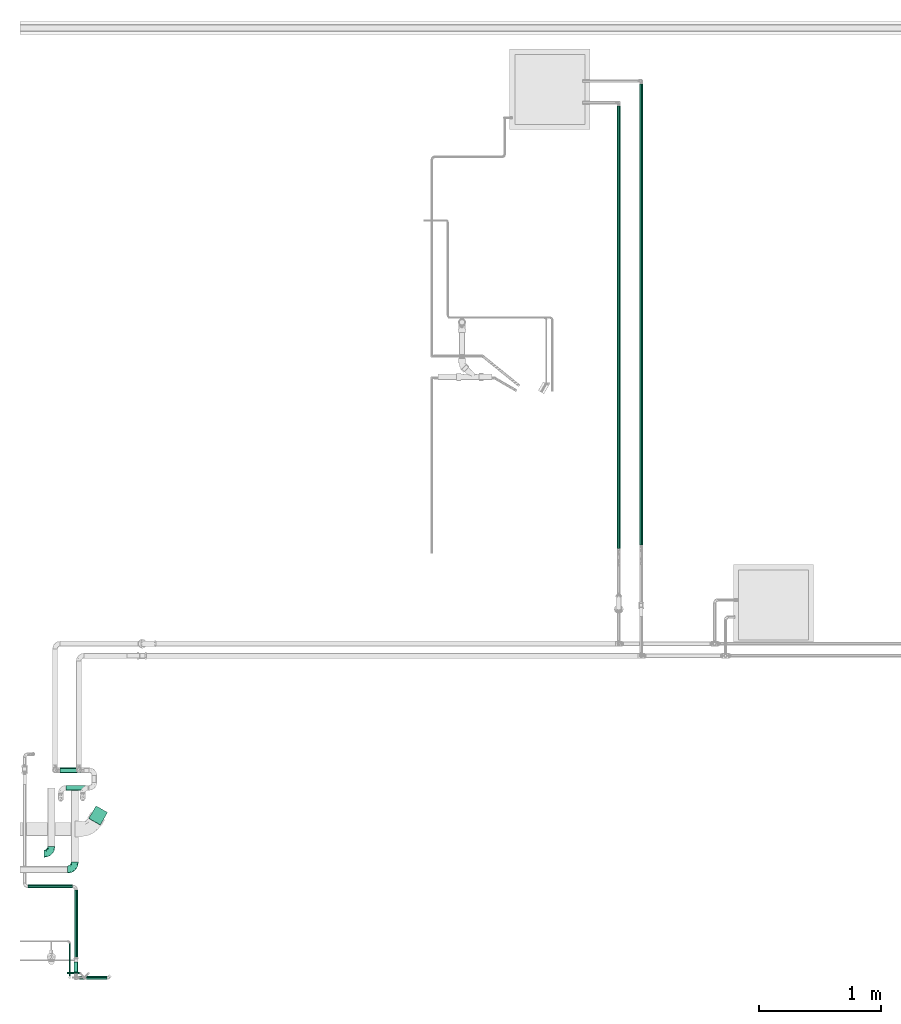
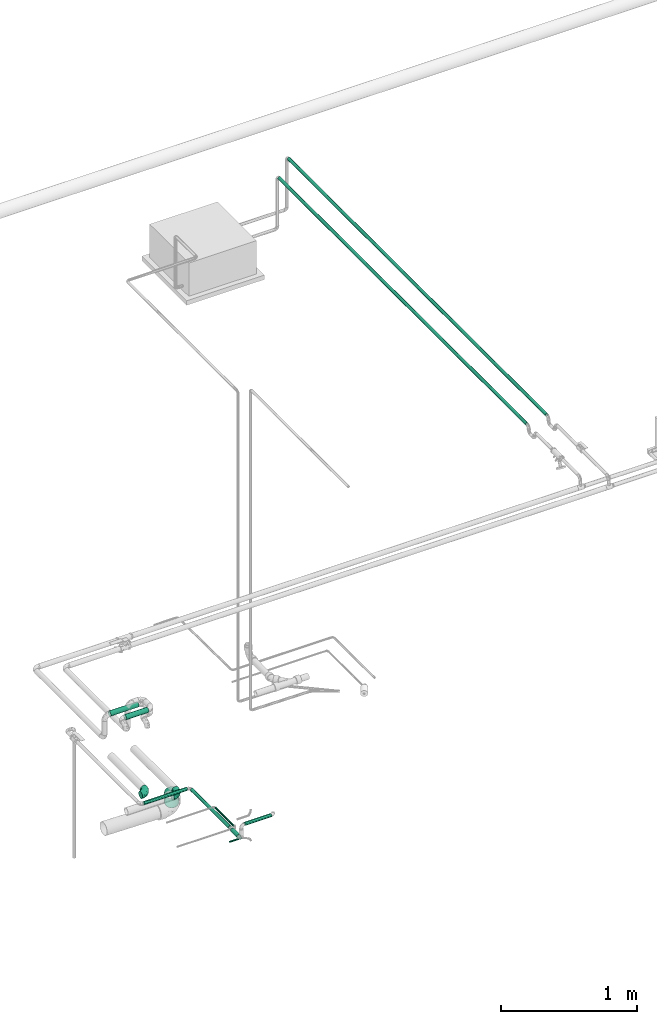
# One storey, part 7 of 35: 11 flow segments, 2 flow fittings.
"""IFC2X3 building model written with IfcOpenShell, lengths in millimetres."""

from ifc_helpers import new_model, entity, si_unit, converted_unit, derived_unit, direction, frame, origin_with_axes, origin_2d_with_axis, place, context, subcontext, project, spatial, hollow_circle, extrude, open_shell, surface_model, source, transform, mapped, type_object, element, save


model = new_model("IFC2X3")

# Units and contexts
model_context = context("Model", 3, precision=0.01, world=frame((0.0, 4.29681676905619e-09, 0.0)), true_north=direction((4.01073788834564e-13, 1.0)))
plan_context = context("Plan", 3, precision=0.01, world=frame((0.0, 4.29681676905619e-09, 0.0)), true_north=direction((4.01073788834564e-13, 1.0)))
body_context = subcontext(model_context, "Body", "Model", "MODEL_VIEW")
ifc_project = project(units=[converted_unit("PLANEANGLEUNIT", "DEGREE", entity("IfcPositiveLengthMeasure", 0.0174532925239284), si_unit("PLANEANGLEUNIT", "RADIAN"), dimensions=[0, 0, 0, 0, 0, 0, 0]), si_unit("AREAUNIT", "SQUARE_METRE"), si_unit("LENGTHUNIT", "METRE", prefix="MILLI"), si_unit("MASSUNIT", "GRAM", prefix="KILO"), si_unit("POWERUNIT", "WATT"), si_unit("PRESSUREUNIT", "PASCAL"), si_unit("FORCEUNIT", "NEWTON", prefix="KILO"), si_unit("ELECTRICVOLTAGEUNIT", "VOLT"), si_unit("ELECTRICCURRENTUNIT", "AMPERE"), si_unit("THERMODYNAMICTEMPERATUREUNIT", "DEGREE_CELSIUS"), si_unit("TIMEUNIT", "SECOND"), si_unit("VOLUMEUNIT", "CUBIC_METRE"), derived_unit("LINEARVELOCITYUNIT", [(si_unit("LENGTHUNIT", "METRE"), 1), (si_unit("TIMEUNIT", "SECOND"), -1)]), derived_unit("VOLUMETRICFLOWRATEUNIT", [(si_unit("VOLUMEUNIT", "CUBIC_METRE"), 1), (si_unit("TIMEUNIT", "SECOND"), -1)]), derived_unit("THERMALTRANSMITTANCEUNIT", [(si_unit("POWERUNIT", "WATT"), 1), (si_unit("THERMODYNAMICTEMPERATUREUNIT", "KELVIN"), -1), (si_unit("AREAUNIT", "SQUARE_METRE"), -1)]), derived_unit("SOUNDPRESSUREUNIT", [(si_unit("PRESSUREUNIT", "PASCAL"), 1)])], contexts=[model_context, plan_context])

# Site, building, storey
site_placement = place(None, frame((0.0, -4.29681676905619e-09, 0.0), z_axis=(0.0, 0.0, 1.0), x_axis=(1.0, 0.0, 0.0)))
site = spatial("IfcSite", under=ifc_project, at=site_placement, Name="ENGM", CompositionType="ELEMENT")
building_placement = place(site_placement, frame((0.0, 4.29681676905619e-09, 0.0), z_axis=(0.0, 0.0, 1.0), x_axis=(1.0, 0.0, 0.0)))
building = spatial("IfcBuilding", under=site, at=building_placement, Name="TH", CompositionType="ELEMENT")
storey_placement = place(building_placement, frame((0.0, 0.0, 210200.0), z_axis=(0.0, 0.0, 1.0), x_axis=(1.0, 0.0, 0.0)))
storey = spatial("IfcBuildingStorey", under=building, at=storey_placement, Name="Nivå F - 0,7 m", CompositionType="ELEMENT", Elevation=210200.0)

# Flow fittings
pipe_fitting_type = type_object("IfcPipeFittingType", Name="magi_pipe_fe_elbow_short_001", PredefinedType="BEND")
shared_shape_1 = source(origin_with_axes(), body_context, "Body", "SurfaceModel", [
    surface_model("IfcShellBasedSurfaceModel", [(-60.4, 15.1, -26.15397), (-60.4, 7.81634, -29.17096), (-60.4, 0.0, -30.2), (-60.4, -21.35462, -21.35462), (-60.4, 26.15397, -15.1), (-60.4, 21.35462, -21.35462), (-60.4, 29.17096, -7.81634), (-60.4, -15.1, -26.15397), (-60.4, -7.81634, -29.17096), (-60.4, -26.15397, -15.1), (-60.4, -29.17096, -7.81634), (-60.4, -30.2, 0.0), (-60.4, -29.17096, 7.81634), (-60.4, 29.17096, 7.81634), (-60.4, -21.35462, 21.35462), (-60.4, 26.15397, 15.1), (-60.4, 21.35462, 21.35462), (-60.4, 7.81634, 29.17096), (-60.4, 15.1, 26.15397), (-60.4, -26.15397, 15.1), (-60.4, -7.81634, 29.17096), (-60.4, 0.0, 30.2), (-60.4, -15.1, 26.15397), (-60.4, 30.2, 0.0), (0.0, 60.4, -30.2), (-7.81634, 60.4, -29.17096), (-15.1, 60.4, -26.15397), (-26.15397, 60.4, -15.1), (-29.17096, 60.4, -7.81634), (-21.35462, 60.4, -21.35462), (29.17096, 60.4, -7.81634), (7.81634, 60.4, -29.17096), (21.35462, 60.4, -21.35462), (15.1, 60.4, -26.15397), (26.15397, 60.4, -15.1), (29.17096, 60.4, 7.81634), (30.2, 60.4, 0.0), (-29.17096, 60.4, 7.81634), (21.35462, 60.4, 21.35462), (-21.35462, 60.4, 21.35462), (-26.15397, 60.4, 15.1), (-15.1, 60.4, 26.15397), (-7.81634, 60.4, 29.17096), (26.15397, 60.4, 15.1), (15.1, 60.4, 26.15397), (0.0, 60.4, 30.2), (7.81634, 60.4, 29.17096), (-30.2, 60.4, 0.0), (-40.79975, -26.48639, 9.49143), (-44.2927, -23.46036, 16.95222), (-32.40306, -25.76572, 0.0), (-45.54716, -27.84754, 0.0), (-7.73382, -10.42985, 11.64553), (-2.102, -8.06735, 6.35117), (1.74449, -1.74448, 12.51332), (-46.13593, -4.00068, 29.68351), (-42.2898, 4.62925, 30.14853), (10.31662, 7.37496, 11.34434), (18.44156, 24.57514, 15.02148), (7.07276, 10.95732, 19.27498), (-30.06693, -0.27102, 29.27145), (-44.17726, -11.39441, 27.16031), (-23.4551, -7.13383, 25.24246), (-38.74025, -17.25266, 22.43475), (-27.059, -23.14697, 6.2131), (-19.77486, -19.33133, 0.0), (-10.95732, -7.07276, 19.27498), (-5.39458, 5.39458, 24.69106), (-29.52069, 48.20084, 13.12597), (-25.22813, 47.01796, 19.8404), (-11.27311, 52.093, 28.2877), (-4.13904, 45.17494, 30.12582), (-46.55352, 11.8443, 28.52822), (-7.88305, 20.22717, 29.65331), (-15.00576, 5.54025, 28.20072), (-3.0852, 16.31623, 27.75343), (-52.24998, 18.2886, 24.60768), (-10.49591, 29.69865, 30.14582), (-22.36958, 22.36958, 29.4662), (-17.98262, 13.19715, 30.04443), (-47.74519, 32.16745, 6.63994), (-48.21585, 29.51581, 13.12396), (-37.49729, 37.49729, 11.28901), (-47.20967, 25.1754, 19.81929), (17.25266, 38.74025, 22.43475), (-31.32046, 40.03273, 17.09289), (11.39441, 44.17725, 27.16031), (23.46036, 44.2927, 16.95222), (26.48639, 40.79975, 9.49143), (-7.14666, -12.89694, 0.0), (-14.66463, -16.61192, 7.82462), (4.00068, 46.13593, 29.68351), (-33.18602, 12.93608, 29.65955), (-29.63414, 7.40029, 30.18711), (19.33133, 19.77486, 0.0), (23.14697, 27.059, 6.2131), (16.61192, 14.66463, 7.82462), (27.84754, 45.54716, 0.0), (-32.10611, 20.49149, 27.93323), (-24.57514, -18.44156, 15.02148), (-21.89487, 39.03366, 25.38224), (-18.45005, 50.6405, 24.73297), (-31.78933, 48.71949, 6.47886), (-37.84917, 39.61073, 5.315), (13.91334, 24.32737, 20.46816), (7.13383, 23.4551, 25.24246), (-34.24603, 45.3, 0.0), (-27.95749, 31.89166, 24.81537), (-41.58677, 20.50028, 25.43151), (-0.46157, 0.46157, 17.84239), (-17.23338, 31.26213, 29.03145), (-24.05994, 29.23812, 27.47858), (-13.06094, 40.92174, 28.76128), (-31.83392, 33.72702, 21.39203), (-38.78737, 32.45032, 16.84022), (0.27102, 30.06693, 29.27145), (-24.21469, -13.23741, 21.05734), (8.23548, 2.19333, 6.02161), (25.76572, 32.40306, 0.0), (12.89694, 7.14666, 0.0), (-45.3, 34.24603, 0.0), (2.87514, -2.87514, 0.0), (-44.53432, 26.00869, -20.11577), (-48.18822, 29.5248, -13.12766), (-24.67192, -7.62159, -25.33714), (-26.22398, -0.37671, -28.72374), (-12.13397, -0.50536, -24.74577), (-47.80891, 3.81859, -30.10171), (-44.05719, -27.03585, -9.84546), (-37.94552, -22.39569, -16.35738), (-28.81663, -22.64668, -10.132), (-43.93799, 12.32789, -28.63778), (-33.27, 7.1392, -30.19348), (-26.0087, 44.53432, -20.11577), (-48.89164, 31.68872, -6.60822), (-18.95522, 47.41145, -24.9828), (-12.32789, 43.93799, -28.63778), (-38.42778, 38.42778, -7.21049), (18.04263, 43.69152, -22.80146), (10.42233, 38.24532, -26.85918), (11.90576, 51.00473, -27.48545), (-5.88381, -10.62327, -7.95335), (-5.9694, -7.83116, -13.76182), (3.24899, -2.56331, -7.96861), (-17.62229, 16.32998, -30.18286), (-28.62959, 17.86952, -29.30113), (-47.41145, 18.95522, -24.98279), (-50.84455, -24.04089, -17.54629), (-29.38053, 34.30665, -22.74674), (-27.91099, 27.91099, -26.51666), (-36.91219, 25.51094, -23.99233), (2.63361, -0.55507, -12.94367), (-43.69152, -18.04263, -22.80146), (22.39569, 37.94552, -16.35738), (27.03585, 44.05719, -9.84546), (22.64668, 28.81663, -10.132), (-51.00473, -11.90576, -27.48545), (3.80785, 44.49426, -29.64782), (-19.0921, -14.69952, -16.47487), (-22.5489, -12.31934, -21.1263), (-10.94772, -7.46239, -18.88204), (-32.95885, -13.78948, -23.71249), (-38.24532, -10.42233, -26.85918), (-44.49427, -3.80785, -29.64782), (-22.6301, 37.15314, -25.58239), (-31.68872, 48.89164, -6.60822), (-3.8186, 47.80891, -30.10171), (-10.66133, 10.66133, -28.51691), (0.37671, 26.22398, -28.72374), (1.27136, 14.18619, -25.18541), (-29.5248, 48.18821, -13.12766), (-36.27113, 36.27113, -14.88553), (24.04089, 50.84455, -17.54629), (17.50188, 24.2636, -16.21902), (9.73525, 11.44907, -16.75087), (12.31934, 22.5489, -21.1263), (6.24176, 25.78208, -26.38266), (-7.1392, 33.27, -30.19348), (-36.7166, 19.4356, -27.21946), (-18.00754, 29.38864, -29.15505), (-0.28629, 0.28629, -17.49884), (-13.98848, -16.88492, -5.19509), (15.48569, 15.00432, -11.24742), (16.88492, 13.98848, -5.19509), (3.55782, 9.20508, -21.18402), (-15.00432, -15.48569, -11.24742)], [open_shell([[[0, 1, 2]], [[0, 2, 3]], [[4, 0, 3]], [[5, 0, 4]], [[6, 4, 3]], [[7, 3, 8]], [[3, 2, 8]], [[9, 10, 3]], [[3, 10, 6]], [[11, 12, 10]], [[13, 6, 10]], [[13, 10, 14]], [[15, 13, 16]], [[17, 18, 16]], [[13, 17, 16]], [[17, 13, 14]], [[19, 14, 12]], [[12, 14, 10]], [[20, 21, 22]], [[17, 14, 22]], [[17, 22, 21]], [[13, 23, 6]], [[24, 25, 26]], [[24, 26, 27]], [[27, 28, 24]], [[27, 26, 29]], [[24, 28, 30]], [[31, 32, 33]], [[31, 24, 32]], [[32, 30, 34]], [[24, 30, 32]], [[30, 35, 36]], [[30, 28, 37]], [[38, 30, 37]], [[39, 37, 40]], [[39, 41, 42]], [[39, 42, 37]], [[38, 37, 42]], [[35, 38, 43]], [[30, 38, 35]], [[44, 45, 46]], [[44, 38, 42]], [[45, 44, 42]], [[28, 47, 37]], [[48, 49, 19]], [[50, 48, 51]], [[52, 53, 54]], [[12, 48, 19]], [[12, 51, 48]], [[21, 55, 56]], [[19, 49, 14]], [[57, 58, 59]], [[60, 61, 62]], [[63, 22, 14]], [[63, 61, 22]], [[64, 50, 65]], [[62, 66, 67]], [[40, 68, 69]], [[42, 70, 71]], [[17, 72, 18]], [[73, 74, 75]], [[18, 76, 16]], [[20, 55, 21]], [[77, 78, 79]], [[80, 81, 82]], [[15, 83, 81]], [[84, 38, 44]], [[23, 13, 80]], [[13, 15, 81]], [[68, 85, 69]], [[83, 15, 16]], [[21, 56, 17]], [[44, 86, 84]], [[16, 76, 83]], [[87, 58, 88]], [[40, 37, 68]], [[89, 90, 65]], [[45, 91, 46]], [[65, 90, 64]], [[45, 42, 71]], [[92, 93, 79]], [[88, 35, 43]], [[43, 38, 87]], [[87, 88, 43]], [[94, 95, 96]], [[88, 97, 35]], [[98, 72, 92]], [[49, 99, 63]], [[69, 100, 101]], [[82, 102, 103]], [[104, 105, 59]], [[106, 102, 47]], [[98, 107, 108]], [[102, 82, 68]], [[86, 44, 46]], [[69, 39, 40]], [[109, 54, 57]], [[110, 100, 111]], [[22, 61, 20]], [[101, 41, 39]], [[70, 42, 41]], [[112, 77, 71]], [[84, 86, 105]], [[96, 95, 58]], [[100, 69, 113]], [[72, 17, 56]], [[108, 113, 83]], [[81, 114, 82]], [[112, 110, 77]], [[91, 71, 115]], [[62, 61, 63]], [[55, 61, 60]], [[116, 99, 66]], [[74, 62, 67]], [[91, 86, 46]], [[105, 86, 115]], [[75, 105, 115]], [[109, 67, 66]], [[59, 105, 67]], [[48, 64, 99]], [[99, 49, 48]], [[63, 14, 49]], [[38, 84, 87]], [[58, 87, 84]], [[92, 72, 56]], [[76, 72, 108]], [[102, 68, 37]], [[82, 114, 85]], [[98, 111, 107]], [[112, 70, 101]], [[114, 83, 113]], [[82, 103, 80]], [[92, 79, 78]], [[115, 71, 77]], [[74, 79, 60]], [[77, 79, 73]], [[71, 91, 45]], [[86, 91, 115]], [[61, 55, 20]], [[56, 55, 60]], [[57, 54, 117]], [[104, 59, 58]], [[116, 66, 62]], [[52, 99, 90]], [[12, 11, 51]], [[97, 88, 118]], [[97, 36, 35]], [[53, 90, 89]], [[90, 53, 52]], [[94, 96, 119]], [[88, 95, 118]], [[117, 54, 53]], [[92, 56, 93]], [[98, 92, 78]], [[111, 98, 78]], [[72, 98, 108]], [[110, 111, 78]], [[107, 111, 100]], [[47, 102, 37]], [[102, 106, 103]], [[106, 120, 103]], [[103, 120, 80]], [[23, 80, 120]], [[13, 81, 80]], [[56, 60, 93]], [[60, 79, 93]], [[117, 121, 119]], [[121, 117, 53]], [[53, 89, 121]], [[119, 96, 117]], [[117, 96, 57]], [[77, 110, 78]], [[100, 110, 112]], [[83, 114, 81]], [[85, 114, 113]], [[69, 85, 113]], [[82, 85, 68]], [[109, 52, 54]], [[99, 52, 66]], [[69, 101, 39]], [[112, 101, 100]], [[100, 113, 107]], [[108, 107, 113]], [[62, 74, 60]], [[75, 74, 67]], [[105, 75, 67]], [[73, 75, 115]], [[77, 73, 115]], [[74, 73, 79]], [[99, 64, 90]], [[50, 64, 48]], [[118, 95, 94]], [[58, 95, 88]], [[58, 57, 96]], [[109, 57, 59]], [[72, 76, 18]], [[83, 76, 108]], [[101, 70, 41]], [[71, 70, 112]], [[58, 84, 104]], [[105, 104, 84]], [[67, 109, 59]], [[52, 109, 66]], [[62, 63, 116]], [[99, 116, 63]], [[122, 4, 123]], [[124, 125, 126]], [[2, 1, 127]], [[128, 129, 130]], [[127, 131, 132]], [[27, 29, 133]], [[120, 134, 23]], [[135, 26, 136]], [[123, 134, 137]], [[138, 139, 140]], [[122, 5, 4]], [[141, 142, 143]], [[144, 132, 145]], [[131, 0, 146]], [[128, 9, 147]], [[148, 149, 150]], [[128, 51, 10]], [[142, 151, 143]], [[152, 3, 7]], [[153, 154, 155]], [[156, 152, 7]], [[31, 157, 24]], [[158, 159, 160]], [[147, 9, 3]], [[129, 152, 161]], [[156, 7, 8]], [[162, 163, 125]], [[154, 34, 30]], [[120, 106, 137]], [[149, 148, 164]], [[47, 28, 165]], [[163, 8, 2]], [[4, 6, 123]], [[25, 166, 136]], [[167, 168, 169]], [[170, 133, 171]], [[25, 24, 166]], [[33, 32, 138]], [[157, 31, 140]], [[28, 27, 170]], [[32, 34, 172]], [[26, 135, 29]], [[132, 131, 145]], [[31, 33, 140]], [[173, 174, 175]], [[169, 168, 176]], [[25, 136, 26]], [[175, 138, 173]], [[168, 177, 157]], [[163, 162, 156]], [[153, 172, 154]], [[9, 128, 10]], [[154, 97, 118]], [[131, 178, 145]], [[0, 5, 146]], [[175, 139, 138]], [[155, 118, 94]], [[131, 1, 0]], [[146, 178, 131]], [[170, 137, 165]], [[149, 179, 145]], [[171, 133, 148]], [[160, 180, 142]], [[65, 181, 89]], [[170, 165, 28]], [[137, 171, 123]], [[172, 138, 32]], [[138, 153, 173]], [[168, 157, 139]], [[166, 157, 177]], [[176, 175, 169]], [[168, 167, 144]], [[154, 30, 97]], [[155, 182, 173]], [[162, 124, 161]], [[147, 152, 129]], [[127, 163, 2]], [[132, 144, 125]], [[132, 125, 163]], [[125, 167, 126]], [[129, 158, 130]], [[30, 36, 97]], [[143, 182, 183]], [[169, 126, 167]], [[5, 122, 146]], [[178, 150, 149]], [[136, 179, 164]], [[133, 29, 135]], [[123, 6, 134]], [[122, 123, 171]], [[133, 170, 27]], [[137, 170, 171]], [[184, 175, 174]], [[180, 160, 126]], [[126, 169, 184]], [[126, 159, 124]], [[51, 128, 50]], [[51, 11, 10]], [[131, 127, 1]], [[163, 127, 132]], [[157, 166, 24]], [[136, 166, 177]], [[164, 179, 149]], [[144, 167, 125]], [[179, 144, 145]], [[168, 144, 177]], [[136, 177, 179]], [[144, 179, 177]], [[141, 121, 89]], [[89, 181, 141]], [[154, 118, 155]], [[183, 155, 94]], [[143, 183, 119]], [[119, 183, 94]], [[155, 183, 182]], [[181, 130, 185]], [[50, 128, 130]], [[130, 181, 65]], [[50, 130, 65]], [[141, 181, 185]], [[142, 141, 185]], [[143, 121, 141]], [[158, 160, 142]], [[142, 180, 151]], [[158, 142, 185]], [[126, 160, 159]], [[130, 158, 185]], [[129, 159, 158]], [[23, 134, 6]], [[120, 137, 134]], [[137, 106, 165]], [[47, 165, 106]], [[174, 151, 180]], [[182, 143, 151]], [[150, 146, 122]], [[149, 145, 178]], [[146, 150, 178]], [[122, 171, 148]], [[148, 150, 122]], [[164, 133, 135]], [[133, 164, 148]], [[164, 135, 136]], [[138, 140, 33]], [[157, 140, 139]], [[154, 172, 34]], [[138, 172, 153]], [[163, 156, 8]], [[152, 156, 162]], [[152, 147, 3]], [[128, 147, 129]], [[155, 173, 153]], [[174, 173, 182]], [[151, 174, 182]], [[174, 180, 184]], [[126, 184, 180]], [[175, 184, 169]], [[168, 139, 176]], [[175, 176, 139]], [[161, 124, 159]], [[125, 124, 162]], [[129, 161, 159]], [[162, 161, 152]], [[143, 119, 121]]])]),
])
for number, where, z_axis, x_axis, name in (
    (1, (895369.84063, 479567.90014, 2921.0), (0.0, 0.0, 1.0), (1.0, 0.0, 0.0), "magi_pipe_fe_elbow_short_001"),
    (2, (895562.81931, 479437.90014, 2921.0), (0.0, 0.0, 1.0), (1.0, 0.0, 0.0), "magi_pipe_fe_elbow_short_001"),
):
    element("IfcFlowFitting", number, at=place(storey_placement, frame(where, z_axis=z_axis, x_axis=x_axis)), inside=storey, type_object=pipe_fitting_type, Name=name, context=body_context, shape_type="MappedRepresentation", body=[
        mapped(shared_shape_1, transform((0.0, 0.0, 0.0), scale=1.0)),
    ])

# Flow segments
pipe_segment_type_1 = type_object("IfcPipeSegmentType", Name="MA", PredefinedType="RIGIDSEGMENT")
shared_shape_2 = source(origin_with_axes(), body_context, "Body", "SweptSolid", [
    extrude(hollow_circle(Radius=55.0, WallThickness=2.0, at=origin_2d_with_axis()), frame((0.0, 0.0, 0.0), z_axis=(1.0, 0.0, 0.0), x_axis=(0.0, 1.0, 0.0)), (0.0, 0.0, 1.0), 119.0),
])
flow_segment_1_placement = place(storey_placement, frame((895784.36562, 479934.27216, 2552.30050000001), z_axis=(0.866025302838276, -0.500000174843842, -5.20417042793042e-18), x_axis=(-0.49992989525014, -0.865903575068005, 0.0167659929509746)))
element("IfcFlowSegment", 3, at=flow_segment_1_placement, inside=storey, type_object=pipe_segment_type_1, Name="MA", context=body_context, shape_type="MappedRepresentation", body=[
    mapped(shared_shape_2, transform((0.0, 0.0, 0.0), scale=1.0)),
])
pipe_segment_type_2 = type_object("IfcPipeSegmentType", Name="Stålrør normaltykke", PredefinedType="RIGIDSEGMENT")
shared_shape_3 = source(origin_with_axes(), body_context, "Body", "SweptSolid", [
    extrude(hollow_circle(Radius=21.2, WallThickness=2.0, at=origin_2d_with_axis()), frame((0.0, 0.0, 0.0), z_axis=(1.0, 0.0, 0.0), x_axis=(0.0, 1.0, 0.0)), (0.0, 0.0, 1.0), 191.0),
])
flow_segment_2_placement = place(storey_placement, frame((895489.80675, 480110.09284, 3225.76131), z_axis=(0.0, 0.0, 1.0), x_axis=(1.0, 0.0, 0.0)))
element("IfcFlowSegment", 4, at=flow_segment_2_placement, inside=storey, type_object=pipe_segment_type_2, Name="Stålrør normaltykke", context=body_context, shape_type="MappedRepresentation", body=[
    mapped(shared_shape_3, transform((0.0, 0.0, 0.0), scale=1.0)),
])
shared_shape_4 = source(origin_with_axes(), body_context, "Body", "SweptSolid", [
    extrude(hollow_circle(Radius=21.2, WallThickness=2.0, at=origin_2d_with_axis()), frame((0.0, 0.0, 0.0), z_axis=(1.0, 0.0, 0.0), x_axis=(0.0, 1.0, 0.0)), (0.0, 0.0, 1.0), 238.4),
])
flow_segment_3_placement = place(storey_placement, frame((895442.33442, 480255.36097, 3187.0), z_axis=(0.0, 0.0, 1.0), x_axis=(1.0, 0.0, 0.0)))
element("IfcFlowSegment", 5, at=flow_segment_3_placement, inside=storey, type_object=pipe_segment_type_2, Name="Stålrør normaltykke", context=body_context, shape_type="MappedRepresentation", body=[
    mapped(shared_shape_4, transform((0.0, 0.0, 0.0), scale=1.0)),
])
pipe_segment_type_3 = type_object("IfcPipeSegmentType", Name="Kobberrør", PredefinedType="RIGIDSEGMENT")
shared_shape_5 = source(origin_with_axes(), body_context, "Body", "SweptSolid", [
    extrude(hollow_circle(Radius=14.0, WallThickness=2.0, at=origin_2d_with_axis()), frame((0.0, 0.0, 0.0), z_axis=(1.0, 0.0, 0.0), x_axis=(0.0, 1.0, 0.0)), (0.0, 0.0, 1.0), 367.3),
])
flow_segment_4_placement = place(storey_placement, frame((895178.16007, 479299.55605, 3055.47382000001), z_axis=(0.0, 0.0, 1.0), x_axis=(1.0, 0.0, 0.0)))
element("IfcFlowSegment", 6, at=flow_segment_4_placement, inside=storey, type_object=pipe_segment_type_3, Name="Kobberrør", context=body_context, shape_type="MappedRepresentation", body=[
    mapped(shared_shape_5, transform((0.0, 0.0, 0.0), scale=1.0)),
])
shared_shape_6 = source(origin_with_axes(), body_context, "Body", "SweptSolid", [
    extrude(hollow_circle(Radius=17.5, WallThickness=2.0, at=origin_2d_with_axis()), frame((0.0, 0.0, 0.0), z_axis=(1.0, 0.0, 0.0), x_axis=(0.0, 1.0, 0.0)), (0.0, 0.0, 1.0), 95.0),
])
flow_segment_5_placement = place(storey_placement, frame((895573.45, 478677.05558, 3055.47382000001), z_axis=(0.0, 0.0, 1.0), x_axis=(0.0, -1.0, 0.0)))
element("IfcFlowSegment", 7, at=flow_segment_5_placement, inside=storey, type_object=pipe_segment_type_3, Name="Kobberrør", context=body_context, shape_type="MappedRepresentation", body=[
    mapped(shared_shape_6, transform((0.0, 0.0, 0.0), scale=1.0)),
])
shared_shape_7 = source(origin_with_axes(), body_context, "Body", "SweptSolid", [
    extrude(hollow_circle(Radius=14.0, WallThickness=2.0, at=origin_2d_with_axis()), frame((0.0, 0.0, 0.0), z_axis=(1.0, 0.0, 0.0), x_axis=(0.0, 1.0, 0.0)), (0.0, 0.0, 1.0), 557.5),
])
flow_segment_6_placement = place(storey_placement, frame((895573.45, 479271.55605, 3055.47382000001), z_axis=(0.0, 0.0, 1.0), x_axis=(0.0, -1.0, 0.0)))
element("IfcFlowSegment", 8, at=flow_segment_6_placement, inside=storey, type_object=pipe_segment_type_3, Name="Kobberrør", context=body_context, shape_type="MappedRepresentation", body=[
    mapped(shared_shape_7, transform((0.0, 0.0, 0.0), scale=1.0)),
])
shared_shape_8 = source(origin_with_axes(), body_context, "Body", "SweptSolid", [
    extrude(hollow_circle(Radius=14.0, WallThickness=2.0, at=origin_2d_with_axis()), frame((0.0, 0.0, 0.0), z_axis=(1.0, 0.0, 0.0), x_axis=(0.0, 1.0, 0.0)), (0.0, 0.0, 1.0), 224.4),
])
flow_segment_7_placement = place(storey_placement, frame((895601.45, 478547.05558, 3178.15807999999), z_axis=(0.0, 0.0, 1.0), x_axis=(1.0, 0.0, 0.0)))
element("IfcFlowSegment", 9, at=flow_segment_7_placement, inside=storey, type_object=pipe_segment_type_3, Name="Kobberrør", context=body_context, shape_type="MappedRepresentation", body=[
    mapped(shared_shape_8, transform((0.0, 0.0, 0.0), scale=1.0)),
])
shared_shape_9 = source(origin_with_axes(), body_context, "Body", "SweptSolid", [
    extrude(hollow_circle(Radius=7.5, WallThickness=2.0, at=origin_2d_with_axis()), frame((0.0, 0.0, 0.0), z_axis=(1.0, 0.0, 0.0), x_axis=(0.0, 1.0, 0.0)), (0.0, 0.0, 1.0), 270.3),
])
flow_segment_8_placement = place(storey_placement, frame((895520.48466, 478562.7375, 3178.15807999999), z_axis=(0.0, 0.0, 1.0), x_axis=(0.0, 1.0, 0.0)))
element("IfcFlowSegment", 10, at=flow_segment_8_placement, inside=storey, type_object=pipe_segment_type_3, Name="Kobberrør", context=body_context, shape_type="MappedRepresentation", body=[
    mapped(shared_shape_9, transform((0.0, 0.0, 0.0), scale=1.0)),
])
shared_shape_10 = source(origin_with_axes(), body_context, "Body", "SweptSolid", [
    extrude(hollow_circle(Radius=7.5, WallThickness=2.0, at=origin_2d_with_axis()), frame((0.0, 0.0, 0.0), z_axis=(1.0, 0.0, 0.0), x_axis=(0.0, 1.0, 0.0)), (0.0, 0.0, 1.0), 104.2),
])
flow_segment_9_placement = place(storey_placement, frame((895497.33366, 478585.9125, 3030.0), z_axis=(0.0, 0.0, 1.0), x_axis=(1.0, 0.0, 0.0)))
element("IfcFlowSegment", 11, at=flow_segment_9_placement, inside=storey, type_object=pipe_segment_type_3, Name="Kobberrør", context=body_context, shape_type="MappedRepresentation", body=[
    mapped(shared_shape_10, transform((0.0, 0.0, 0.0), scale=1.0)),
])
shared_shape_11 = source(origin_with_axes(), body_context, "Body", "SweptSolid", [
    extrude(hollow_circle(Radius=13.3, WallThickness=2.0, at=origin_2d_with_axis()), frame((0.0, 0.0, 0.0), z_axis=(1.0, 0.0, 0.0), x_axis=(0.0, 1.0, 0.0)), (0.0, 0.0, 1.0), 3640.1),
])
flow_segment_10_placement = place(storey_placement, frame((900037.00487, 482078.41097, 3070.04999999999), z_axis=(0.0, 0.0, 1.0), x_axis=(0.0, 1.0, 0.0)))
element("IfcFlowSegment", 12, at=flow_segment_10_placement, inside=storey, type_object=pipe_segment_type_2, Name="Stålrør normaltykke", context=body_context, shape_type="MappedRepresentation", body=[
    mapped(shared_shape_11, transform((0.0, 0.0, 0.0), scale=1.0)),
])
shared_shape_12 = source(origin_with_axes(), body_context, "Body", "SweptSolid", [
    extrude(hollow_circle(Radius=13.3, WallThickness=2.0, at=origin_2d_with_axis()), frame((0.0, 0.0, 0.0), z_axis=(1.0, 0.0, 0.0), x_axis=(0.0, 1.0, 0.0)), (0.0, 0.0, 1.0), 3791.4),
])
flow_segment_11_placement = place(storey_placement, frame((900221.2, 485898.37011, 3070.04999999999), z_axis=(0.0, 0.0, 1.0), x_axis=(0.0, -1.0, 0.0)))
element("IfcFlowSegment", 13, at=flow_segment_11_placement, inside=storey, type_object=pipe_segment_type_2, Name="Stålrør normaltykke", context=body_context, shape_type="MappedRepresentation", body=[
    mapped(shared_shape_12, transform((0.0, 0.0, 0.0), scale=1.0)),
])

save(model, "model.ifc")
